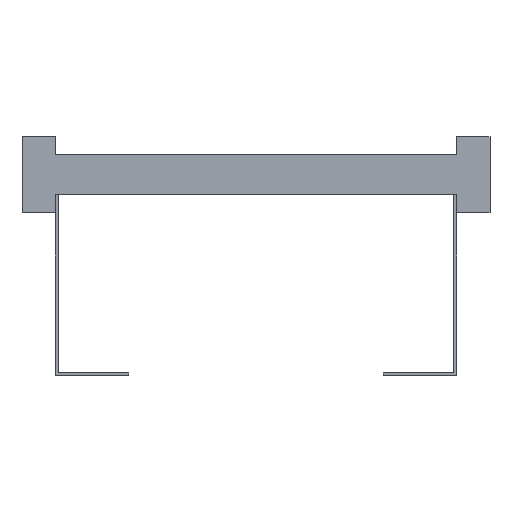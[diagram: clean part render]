
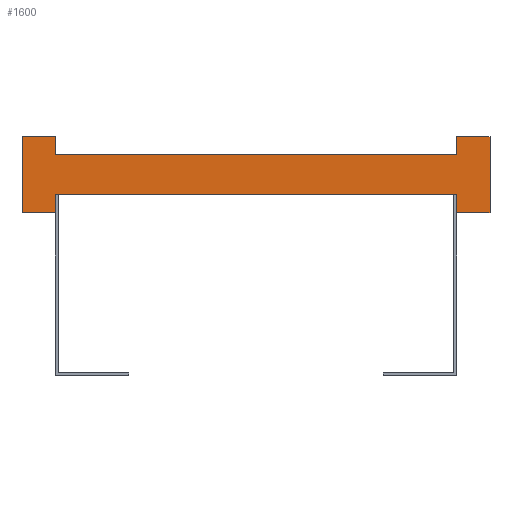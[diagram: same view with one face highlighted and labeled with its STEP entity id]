
A CAD part, front view. The second image highlights one B-rep face of the part: STEP entity #1600.
In plain terms, the highlighted planar face has unit normal (0, -1, 0).
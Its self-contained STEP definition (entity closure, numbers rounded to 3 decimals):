
#1=DIRECTION('',(0.,0.,1.));
#2=VECTOR('',#1,13.5);
#3=CARTESIAN_POINT('',(150.,0.,-28.5));
#4=LINE('',#3,#2);
#5=DIRECTION('',(0.,0.,-1.));
#6=VECTOR('',#5,13.5);
#7=CARTESIAN_POINT('',(-150.,0.,-15.));
#8=LINE('',#7,#6);
#9=DIRECTION('',(-1.,0.,0.));
#10=VECTOR('',#9,25.);
#11=CARTESIAN_POINT('',(-150.,0.,-28.5));
#12=LINE('',#11,#10);
#13=DIRECTION('',(0.,0.,1.));
#14=VECTOR('',#13,57.);
#15=CARTESIAN_POINT('',(-175.,0.,-28.5));
#16=LINE('',#15,#14);
#17=DIRECTION('',(1.,0.,0.));
#18=VECTOR('',#17,25.);
#19=CARTESIAN_POINT('',(-175.,0.,28.5));
#20=LINE('',#19,#18);
#21=DIRECTION('',(0.,0.,-1.));
#22=VECTOR('',#21,13.5);
#23=CARTESIAN_POINT('',(-150.,0.,28.5));
#24=LINE('',#23,#22);
#25=DIRECTION('',(0.,0.,1.));
#26=VECTOR('',#25,13.5);
#27=CARTESIAN_POINT('',(150.,0.,15.));
#28=LINE('',#27,#26);
#29=DIRECTION('',(1.,0.,0.));
#30=VECTOR('',#29,25.);
#31=CARTESIAN_POINT('',(150.,0.,28.5));
#32=LINE('',#31,#30);
#33=DIRECTION('',(0.,0.,-1.));
#34=VECTOR('',#33,57.);
#35=CARTESIAN_POINT('',(175.,0.,28.5));
#36=LINE('',#35,#34);
#37=DIRECTION('',(-1.,0.,0.));
#38=VECTOR('',#37,25.);
#39=CARTESIAN_POINT('',(175.,0.,-28.5));
#40=LINE('',#39,#38);
#1169=DIRECTION('',(1.,0.,0.));
#1170=VECTOR('',#1169,300.);
#1171=CARTESIAN_POINT('',(-150.,0.,-15.));
#1172=LINE('',#1171,#1170);
#1181=DIRECTION('',(1.,0.,0.));
#1182=VECTOR('',#1181,300.);
#1183=CARTESIAN_POINT('',(-150.,0.,15.));
#1184=LINE('',#1183,#1182);
#1185=CARTESIAN_POINT('',(-175.,0.,28.5));
#1186=CARTESIAN_POINT('',(-150.,0.,28.5));
#1187=VERTEX_POINT('',#1185);
#1188=VERTEX_POINT('',#1186);
#1189=CARTESIAN_POINT('',(-150.,0.,-28.5));
#1190=CARTESIAN_POINT('',(-175.,0.,-28.5));
#1191=VERTEX_POINT('',#1189);
#1192=VERTEX_POINT('',#1190);
#1193=CARTESIAN_POINT('',(175.,0.,28.5));
#1194=CARTESIAN_POINT('',(175.,0.,-28.5));
#1195=VERTEX_POINT('',#1193);
#1196=VERTEX_POINT('',#1194);
#1197=CARTESIAN_POINT('',(150.,0.,-28.5));
#1198=VERTEX_POINT('',#1197);
#1199=CARTESIAN_POINT('',(150.,0.,28.5));
#1200=VERTEX_POINT('',#1199);
#1217=CARTESIAN_POINT('',(-150.,0.,-15.));
#1219=VERTEX_POINT('',#1217);
#1221=CARTESIAN_POINT('',(-150.,0.,15.));
#1223=VERTEX_POINT('',#1221);
#1225=CARTESIAN_POINT('',(150.,0.,-15.));
#1227=VERTEX_POINT('',#1225);
#1229=CARTESIAN_POINT('',(150.,0.,15.));
#1231=VERTEX_POINT('',#1229);
#1569=CARTESIAN_POINT('',(0.,0.,0.));
#1570=DIRECTION('',(0.,1.,0.));
#1571=DIRECTION('',(1.,0.,0.));
#1572=AXIS2_PLACEMENT_3D('',#1569,#1570,#1571);
#1573=PLANE('',#1572);
#1575=ORIENTED_EDGE('',*,*,#1574,.T.);
#1577=ORIENTED_EDGE('',*,*,#1576,.F.);
#1579=ORIENTED_EDGE('',*,*,#1578,.T.);
#1581=ORIENTED_EDGE('',*,*,#1580,.T.);
#1583=ORIENTED_EDGE('',*,*,#1582,.T.);
#1585=ORIENTED_EDGE('',*,*,#1584,.T.);
#1587=ORIENTED_EDGE('',*,*,#1586,.T.);
#1589=ORIENTED_EDGE('',*,*,#1588,.T.);
#1591=ORIENTED_EDGE('',*,*,#1590,.T.);
#1593=ORIENTED_EDGE('',*,*,#1592,.T.);
#1595=ORIENTED_EDGE('',*,*,#1594,.T.);
#1597=ORIENTED_EDGE('',*,*,#1596,.T.);
#1598=EDGE_LOOP('',(#1575,#1577,#1579,#1581,#1583,#1585,#1587,#1589,#1591,#1593,
#1595,#1597));
#1599=FACE_OUTER_BOUND('',#1598,.F.);
#1600=ADVANCED_FACE('',(#1599),#1573,.F.);
#1574=EDGE_CURVE('',#1198,#1227,#4,.T.);
#1576=EDGE_CURVE('',#1219,#1227,#1172,.T.);
#1578=EDGE_CURVE('',#1219,#1191,#8,.T.);
#1580=EDGE_CURVE('',#1191,#1192,#12,.T.);
#1582=EDGE_CURVE('',#1192,#1187,#16,.T.);
#1584=EDGE_CURVE('',#1187,#1188,#20,.T.);
#1586=EDGE_CURVE('',#1188,#1223,#24,.T.);
#1588=EDGE_CURVE('',#1223,#1231,#1184,.T.);
#1590=EDGE_CURVE('',#1231,#1200,#28,.T.);
#1592=EDGE_CURVE('',#1200,#1195,#32,.T.);
#1594=EDGE_CURVE('',#1195,#1196,#36,.T.);
#1596=EDGE_CURVE('',#1196,#1198,#40,.T.);
